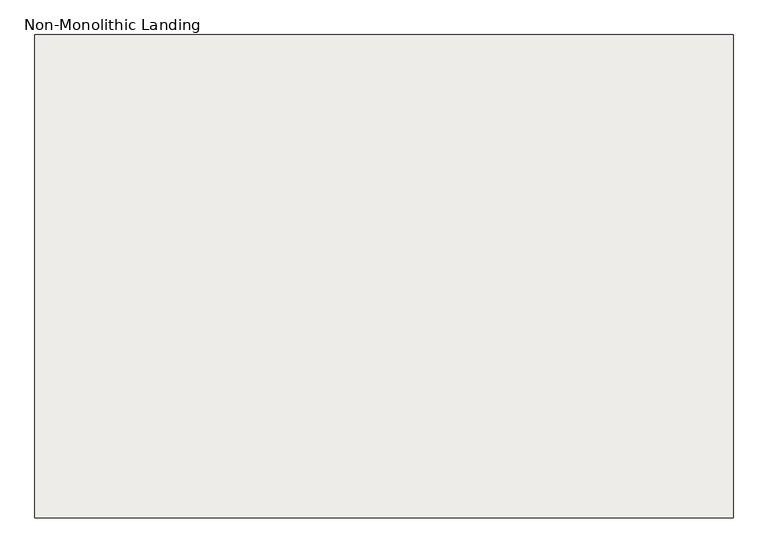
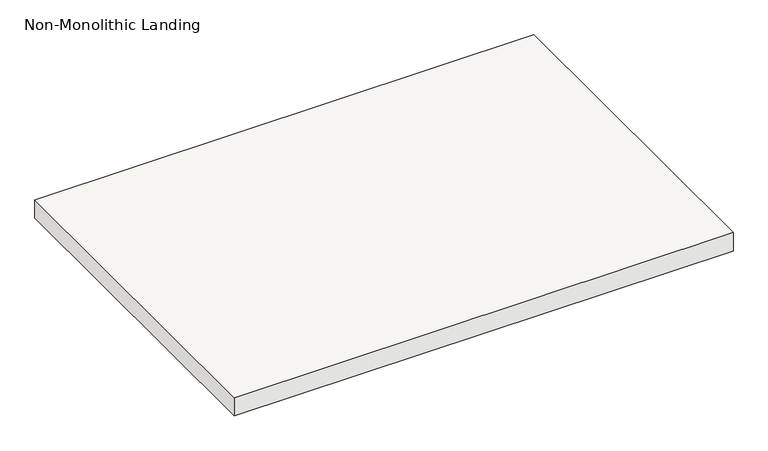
"""IFC4 building model written with IfcOpenShell, lengths in millimetres: slab geometry, Non-Monolithic Landing."""

from ifc_helpers import new_model, si_unit, frame, origin, place, context, project, spatial, polyline, outline, extrude, source, transform, mapped, element, save


def non_monolithic_landing_622c76ce(model_context):
    return source(origin(), model_context, "Body", "SweptSolid", [
        extrude(outline(polyline([(87752.2048368, 16760.4395941), (89073.0048368, 16760.4395941), (89073.0048368, 15846.0395941), (87752.2048368, 15846.0395941), (87752.2048368, 16760.4395941)])), frame((0.0, 0.0, 2126.3428571), z_axis=(0.0, 0.0, 1.0), x_axis=(1.0, 0.0, 0.0)), (0.0, 0.0, 1.0), 50.8),
    ])


if __name__ == "__main__":
    model = new_model("IFC4")
    model_context = context("Model", 3, world=origin())
    ifc_project = project(units=[si_unit("LENGTHUNIT", "METRE", prefix="MILLI")], contexts=[model_context])
    site = spatial("IfcSite", under=ifc_project)
    building = spatial("IfcBuilding", under=site)
    placement = place(None, origin())
    non_monolithic_landing_shape = non_monolithic_landing_622c76ce(model_context)
    element("IfcSlab", 1, ObjectType="Non-Monolithic Landing", at=placement, inside=building, context=model_context, shape_type="MappedRepresentation", body=[
        mapped(non_monolithic_landing_shape, transform((0.0, 0.0, 0.0), x_axis=(1.0, 0.0, 0.0), y_axis=(0.0, 1.0, 0.0), z_axis=(0.0, 0.0, 1.0))),
    ])
    save(model, "model.ifc")
